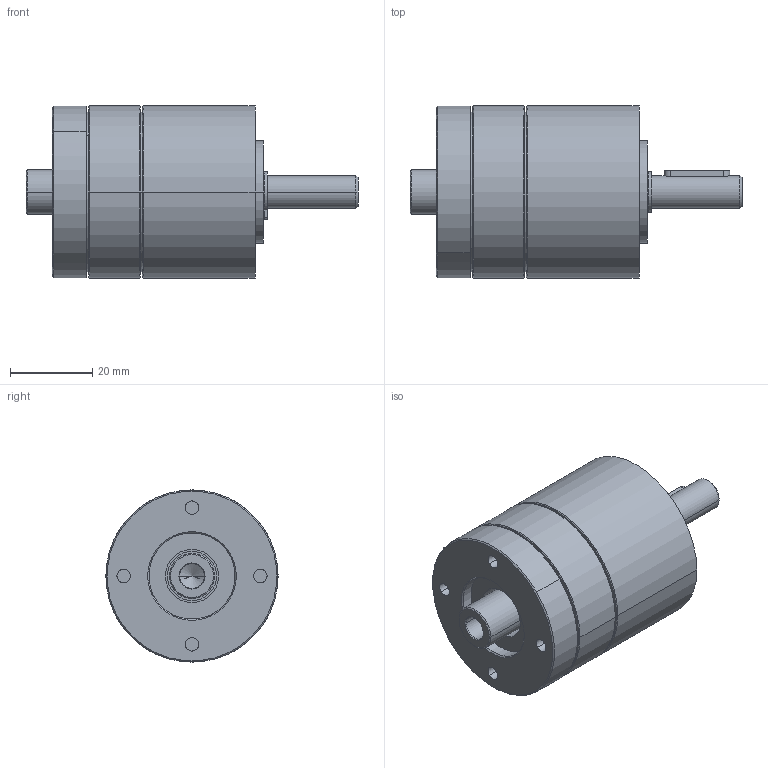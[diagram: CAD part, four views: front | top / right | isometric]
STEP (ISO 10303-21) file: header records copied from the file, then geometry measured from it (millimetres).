
FILE_DESCRIPTION((''),'2;1');
FILE_NAME('IMS42_PRO_1_STAGE_ASM','2024-09-02T13:24:02',('mhummel'),(''),'CREO PARAMETRIC BY PTC INC, 2020184','CREO PARAMETRIC BY PTC INC, 2020184','');
FILE_SCHEMA(('AUTOMOTIVE_DESIGN { 1 0 10303 214 1 1 1 1 }'));
Length unit declared in the file: millimetre
Products named in the file (14): IMS42_PRO_BEARING_FLANGE; IMS42_PRO_BALL_BEARING; IMS42_PRO_RING_GEAR_1_STAGE; IMS42_PRO_MOTOR_FLANGE; IMS42_SHIM_RING; IMS42_PRO_SHAFT_RAW_AF0; IMS42_PRO_SHAFT_ASM; IMS42_PRO_RETAINING_RING_A; IMS42_PRO_FEATHER_KEY; IMS42_PRO_THRUST_WASHER_1_STAGE; IMS42_PRO_SCREW_1_STAGE; IMS42_PRO_PINION_SHORT; IMS42_PRO_PINION_LONG; IMS42_PRO_1_STAGE_ASM
Assembly tree (17 placements, depth 3):
  IMS42_PRO_1_STAGE_ASM
    IMS42_PRO_BEARING_FLANGE
    IMS42_PRO_BALL_BEARING  x2
    IMS42_PRO_RING_GEAR_1_STAGE
    IMS42_PRO_MOTOR_FLANGE
    IMS42_SHIM_RING
    IMS42_PRO_SHAFT_ASM
      IMS42_PRO_SHAFT_RAW_AF0
    IMS42_PRO_RETAINING_RING_A
    IMS42_PRO_FEATHER_KEY
    IMS42_PRO_THRUST_WASHER_1_STAGE
    IMS42_PRO_SCREW_1_STAGE  x4
    IMS42_PRO_PINION_SHORT
    IMS42_PRO_PINION_LONG
Bounding box: 80.95 x 42 x 42 mm (x, y, z)
Volume: 55506.6 mm3; surface area: 34351.8 mm2
Topology: 20 solids, 22 shells, 408 faces, 877 edges, 522 vertices
Faces by surface type: cylinder 162, cone 102, plane 98, torus 46
Entity records: 12156 total; most frequent: DIRECTION 1787, CARTESIAN_POINT 1529, ORIENTED_EDGE 1366, AXIS2_PLACEMENT_3D 752, PRESENTATION_STYLE_ASSIGNMENT 735, STYLED_ITEM 724, CURVE_STYLE 683, EDGE_CURVE 683
